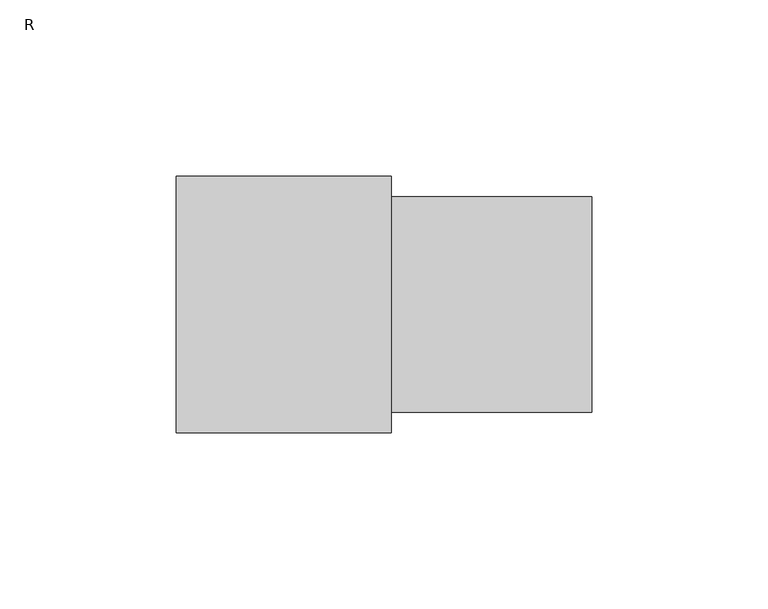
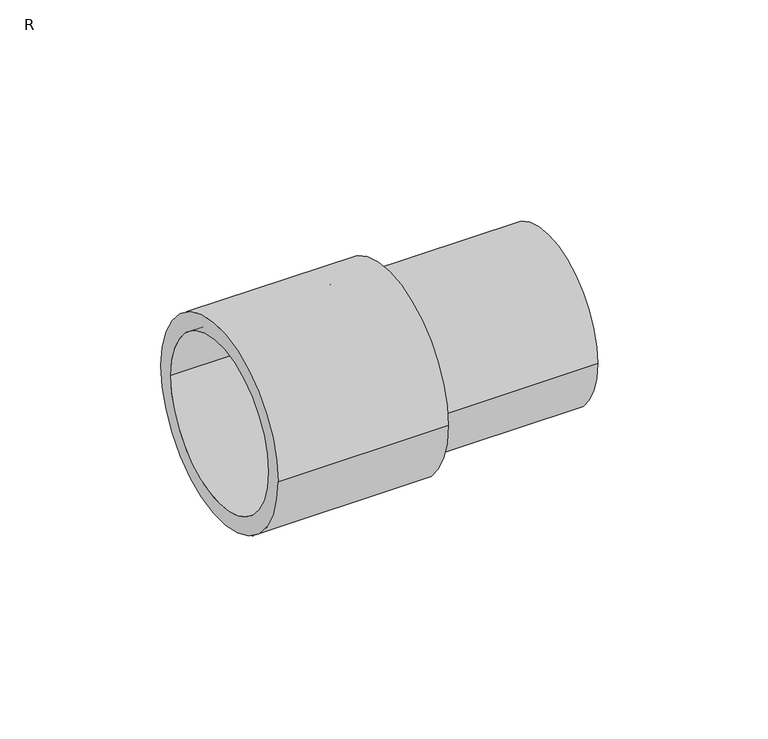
"""IFC4 building model written with IfcOpenShell, lengths in millimetres: pipe fitting geometry, FUSAPEX reducer for T-Piece : R."""

from ifc_helpers import new_model, si_unit, frame, origin, place, context, project, spatial, polyline, circle_curve, source, transform, mapped, element, save
from ifc_brep_helpers import plane_surface, cylinder_surface, revolved_surface, advanced_brep


def r_3b0af651(model_context):
    return source(origin(), model_context, "Body", "AdvancedBrep", [
        advanced_brep(
        [(-61.0, 30.25, 0.0), (-61.0, -30.25, 0.0), (-11.2, -30.25, 0.0), (-11.2, 30.25, 0.0), (0.0, 36.4, 0.0), (0.0, -36.4, 0.0), (-61.0, -36.4, 0.0), (-61.0, 36.4, 0.0), (57.0, 30.55, 0.0), (57.0, -30.55, 0.0), (0.0, -30.55, 0.0), (0.0, 30.55, 0.0), (-11.2, 25.25, 0.0), (-11.2, -25.25, 0.0), (57.0, -25.25, 0.0), (57.0, 25.25, 0.0)],
        [
            (0, 1, circle_curve(frame((-61.0, 0.0, 0.0), z_axis=(-1.0, 0.0, 0.0), x_axis=(0.0, -1.0, 0.0)), 30.25)),
            (1, 2),
            (2, 3, circle_curve(frame((-11.2, 0.0, 0.0), z_axis=(1.0, 0.0, 0.0), x_axis=(0.0, -1.0, 0.0)), 30.25)),
            (3, 0),
            (4, 5, circle_curve(frame((0.0, 0.0, 0.0), z_axis=(-1.0, 0.0, 0.0), x_axis=(0.0, -1.0, 0.0)), 36.4)),
            (5, 6),
            (6, 7, circle_curve(frame((-61.0, 0.0, 0.0), z_axis=(1.0, 0.0, 0.0), x_axis=(0.0, -1.0, 0.0)), 36.4)),
            (7, 4),
            (8, 9, circle_curve(frame((57.0, 0.0, 0.0), z_axis=(-1.0, 0.0, 0.0), x_axis=(0.0, -1.0, 0.0)), 30.55)),
            (9, 10),
            (10, 11, circle_curve(frame((0.0, 0.0, 0.0), z_axis=(1.0, 0.0, 0.0), x_axis=(0.0, -1.0, 0.0)), 30.55)),
            (11, 8),
            (12, 13, circle_curve(frame((-11.2, 0.0, 0.0), z_axis=(-1.0, 0.0, 0.0), x_axis=(0.0, -1.0, 0.0)), 25.25)),
            (13, 14),
            (14, 15, circle_curve(frame((57.0, 0.0, 0.0), z_axis=(1.0, 0.0, 0.0), x_axis=(0.0, -1.0, 0.0)), 25.25)),
            (15, 12),
            (1, 0, circle_curve(frame((-61.0, 0.0, 0.0), z_axis=(-1.0, 0.0, 0.0), x_axis=(0.0, 1.0, 0.0)), 30.25)),
            (3, 2, circle_curve(frame((-11.2, 0.0, 0.0), z_axis=(1.0, 0.0, 0.0), x_axis=(0.0, 1.0, 0.0)), 30.25)),
            (6, 7, circle_curve(frame((-61.0, 0.0, 0.0), z_axis=(-1.0, 0.0, 0.0), x_axis=(0.0, 1.0, 0.0)), 36.4)),
            (5, 4, circle_curve(frame((0.0, 0.0, 0.0), z_axis=(-1.0, 0.0, 0.0), x_axis=(0.0, 1.0, 0.0)), 36.4)),
            (10, 11, circle_curve(frame((0.0, 0.0, 0.0), z_axis=(-1.0, 0.0, 0.0), x_axis=(0.0, 1.0, 0.0)), 30.55)),
            (9, 8, circle_curve(frame((57.0, 0.0, 0.0), z_axis=(-1.0, 0.0, 0.0), x_axis=(0.0, 1.0, 0.0)), 30.55)),
            (14, 15, circle_curve(frame((57.0, 0.0, 0.0), z_axis=(-1.0, 0.0, 0.0), x_axis=(0.0, 1.0, 0.0)), 25.25)),
            (13, 12, circle_curve(frame((-11.2, 0.0, 0.0), z_axis=(-1.0, 0.0, 0.0), x_axis=(0.0, 1.0, 0.0)), 25.25)),
        ],
        [
            revolved_surface(polyline([(-11.2, -30.25, 0.0), (-61.0, -30.25, 0.0)]), (0.0, 0.0, 0.0), (1.0, 0.0, 0.0)),
            cylinder_surface(frame((0.0, 0.0, 0.0), z_axis=(1.0, 0.0, 0.0), x_axis=(0.0, -1.0, 0.0)), 36.4),
            cylinder_surface(frame((0.0, 0.0, 0.0), z_axis=(1.0, 0.0, 0.0), x_axis=(0.0, -1.0, 0.0)), 30.55),
            revolved_surface(polyline([(57.0, -25.25, 0.0), (-11.2, -25.25, 0.0)]), (0.0, 0.0, 0.0), (1.0, 0.0, 0.0)),
            revolved_surface(polyline([(-11.2, 30.25, 0.0), (-61.0, 30.25, 0.0)]), (0.0, 0.0, 0.0), (1.0, 0.0, 0.0)),
            plane_surface(frame((-61.0, 0.0, 0.0), z_axis=(-1.0, 0.0, 0.0), x_axis=(0.0, 1.0, 0.0))),
            cylinder_surface(frame((0.0, 0.0, 0.0), z_axis=(1.0, 0.0, 0.0), x_axis=(0.0, 1.0, 0.0)), 36.4),
            plane_surface(frame((0.0, 0.0, 0.0), z_axis=(1.0, 0.0, 0.0), x_axis=(0.0, 1.0, 0.0))),
            cylinder_surface(frame((0.0, 0.0, 0.0), z_axis=(1.0, 0.0, 0.0), x_axis=(0.0, 1.0, 0.0)), 30.55),
            plane_surface(frame((57.0, 0.0, 0.0), z_axis=(1.0, 0.0, 0.0), x_axis=(0.0, 1.0, 0.0))),
            revolved_surface(polyline([(57.0, 25.25, 0.0), (-11.2, 25.25, 0.0)]), (0.0, 0.0, 0.0), (1.0, 0.0, 0.0)),
            plane_surface(frame((-11.2, 0.0, 0.0), z_axis=(-1.0, 0.0, 0.0), x_axis=(0.0, 1.0, 0.0))),
        ],
        [
            (0, [[1, 2, 3, 4]]),
            (1, [[5, 6, 7, 8]]),
            (2, [[9, 10, 11, 12]]),
            (3, [[13, 14, 15, 16]]),
            (4, [[17, -4, 18, -2]]),
            (5, [[19, -7], [-17, -1]]),
            (6, [[20, -8, -19, -6]]),
            (7, [[-20, -5], [21, -11]]),
            (8, [[22, -12, -21, -10]]),
            (9, [[-22, -9], [23, -15]]),
            (10, [[24, -16, -23, -14]]),
            (11, [[-18, -3], [-24, -13]]),
        ],
    ),
    ])


if __name__ == "__main__":
    model = new_model("IFC4")
    model_context = context("Model", 3, world=origin())
    ifc_project = project(units=[si_unit("LENGTHUNIT", "METRE", prefix="MILLI")], contexts=[model_context])
    site = spatial("IfcSite", under=ifc_project)
    building = spatial("IfcBuilding", under=site)
    placement = place(None, origin())
    r_shape = r_3b0af651(model_context)
    element("IfcPipeFitting", 1, ObjectType="FUSAPEX reducer for T-Piece : R", at=placement, inside=building, context=model_context, shape_type="MappedRepresentation", body=[
        mapped(r_shape, transform((0.0, 0.0, 0.0), x_axis=(1.0, 0.0, 0.0), y_axis=(0.0, 1.0, 0.0), z_axis=(0.0, 0.0, 1.0))),
    ])
    save(model, "model.ifc")
